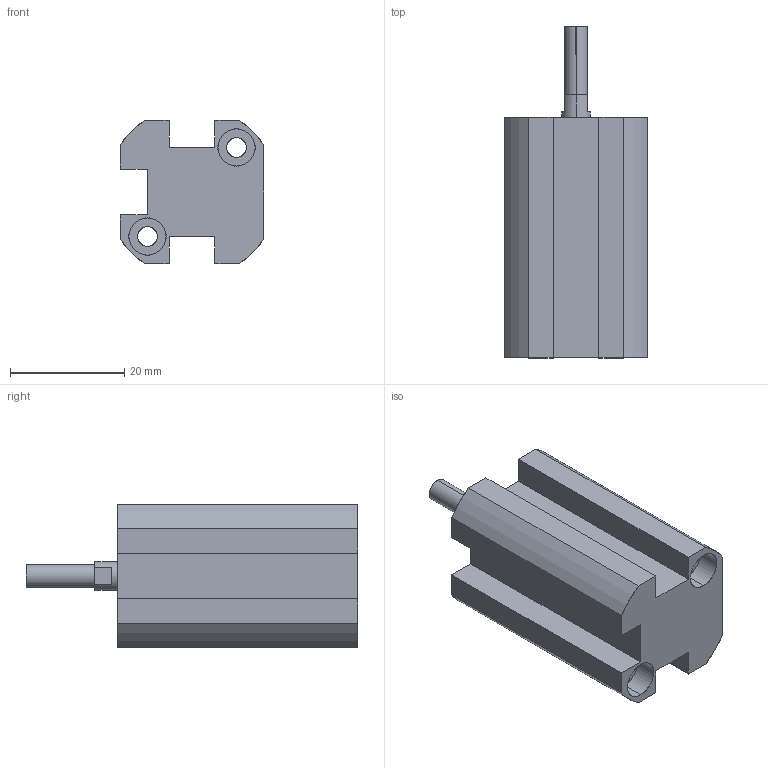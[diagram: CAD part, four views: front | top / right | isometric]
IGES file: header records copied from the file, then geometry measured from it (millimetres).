
Start section: SolidWorks IGES file using analytic representation for surfaces
Global section: file name: C:\Users\Toshiba\Desktop\XG#M1-10D-10.IGS; native system: SolidWorks 2014; preprocessor: SolidWorks 2014; author: Toshiba; date: 160524.100612; units: millimetre
Bounding box: 25 x 58 x 25 mm (x, y, z)
Surface area: 7480.5 mm2 (no closed solid volume)
Topology: 0 solids, 0 shells, 73 faces, 1169 edges, 1167 vertices
Faces by surface type: revolution 39, bspline 34
